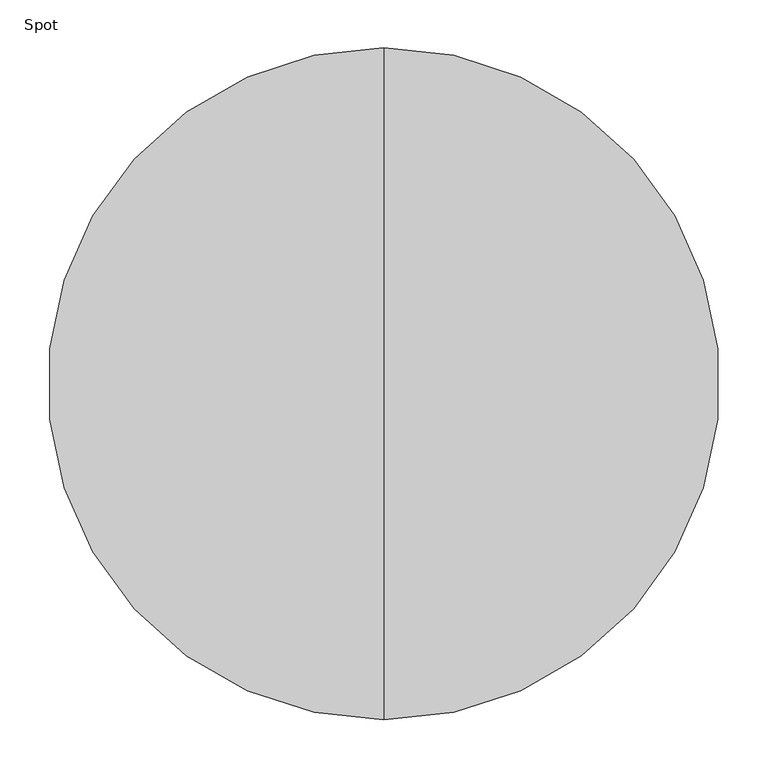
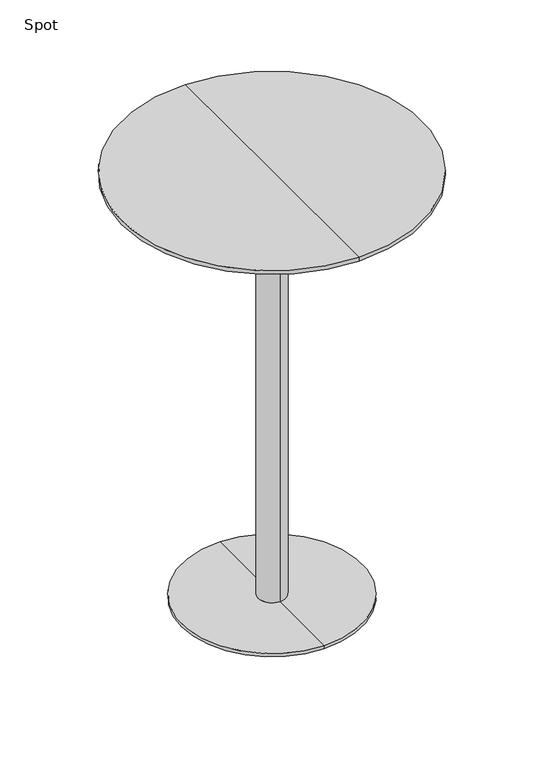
"""IFC4 building model written with IfcOpenShell, lengths in millimetres: furniture geometry, Spot : ø70x105."""

from ifc_helpers import new_model, si_unit, frame, origin, place, context, project, spatial, polyline, circle_curve, source, transform, mapped, element, save
from ifc_brep_helpers import plane_surface, cylinder_surface, revolved_surface, advanced_brep


def spot_e152b922(model_context):
    return source(origin(), model_context, "Body", "AdvancedBrep", [
        advanced_brep(
        [(0.0, 350.0, 1050.0), (0.0, -350.0, 1050.0), (0.0, 0.0, 1050.0), (0.0, 350.0, 1040.25), (0.0, -350.0, 1040.25), (0.0, 304.2823776, 1028.0), (0.0, -304.2823776, 1028.0), (0.0, 0.0, 1028.0)],
        [
            (0, 1, circle_curve(frame((0.0, 0.0, 1050.0), z_axis=(0.0, 0.0, 1.0), x_axis=(0.0, -1.0, 0.0)), 350.0)),
            (1, 2),
            (2, 0),
            (1, 0, circle_curve(frame((0.0, 0.0, 1050.0), z_axis=(0.0, 0.0, 1.0), x_axis=(0.0, -1.0, 0.0)), 350.0)),
            (3, 4, circle_curve(frame((0.0, 0.0, 1040.25), z_axis=(0.0, 0.0, 1.0), x_axis=(0.0, -1.0, 0.0)), 350.0)),
            (4, 1),
            (0, 3),
            (4, 3, circle_curve(frame((0.0, 0.0, 1040.25), z_axis=(0.0, 0.0, 1.0), x_axis=(0.0, -1.0, 0.0)), 350.0)),
            (5, 6, circle_curve(frame((0.0, 0.0, 1028.0), z_axis=(0.0, 0.0, 1.0), x_axis=(0.0, -1.0, 0.0)), 304.2823776)),
            (6, 4),
            (3, 5),
            (6, 5, circle_curve(frame((0.0, 0.0, 1028.0), z_axis=(0.0, 0.0, 1.0), x_axis=(0.0, -1.0, 0.0)), 304.2823776)),
            (7, 6),
            (5, 7),
        ],
        [
            plane_surface(frame((0.0, 0.0, 1050.0), z_axis=(0.0, 0.0, 1.0), x_axis=(0.0, -1.0, 0.0))),
            cylinder_surface(frame((0.0, 0.0, 1130.0), z_axis=(0.0, 0.0, -1.0), x_axis=(0.0, -1.0, 0.0)), 350.0),
            revolved_surface(polyline([(0.0, -350.0, 1040.25), (0.0, -304.2823776, 1028.0)]), (0.0, 0.0, 1130.0), (0.0, 0.0, -1.0)),
            plane_surface(frame((0.0, 0.0, 1028.0), z_axis=(0.0, 0.0, -1.0), x_axis=(0.0, -1.0, 0.0))),
        ],
        [
            (0, [[1, 2, 3]]),
            (0, [[4, -3, -2]]),
            (1, [[5, 6, -1, 7]]),
            (1, [[8, -7, -4, -6]]),
            (2, [[9, 10, -5, 11]]),
            (2, [[12, -11, -8, -10]]),
            (3, [[13, -9, 14]]),
            (3, [[-14, -12, -13]]),
        ],
    ),
        advanced_brep(
        [(0.0, 32.0, 10.0), (0.0, -32.0, 10.0), (0.0, -32.0, 997.406916), (0.0, 32.0, 997.406916), (0.0, 210.0, 10.0), (0.0, -210.0, 10.0), (0.0, 210.0, 2.0), (0.0, -210.0, 2.0), (0.0, 0.0, 2.0), (0.0, 150.0, 1028.0), (0.0, -150.0, 1028.0), (0.0, 0.0, 1028.0), (0.0, 150.0, 1016.7213673), (0.0, -150.0, 1016.7213673)],
        [
            (0, 1, circle_curve(frame((0.0, 0.0, 10.0), z_axis=(0.0, 0.0, 1.0), x_axis=(0.0, -1.0, 0.0)), 32.0)),
            (1, 2),
            (2, 3, circle_curve(frame((0.0, 0.0, 997.406916), z_axis=(0.0, 0.0, -1.0), x_axis=(0.0, -1.0, 0.0)), 32.0)),
            (3, 0),
            (1, 0, circle_curve(frame((0.0, 0.0, 10.0), z_axis=(0.0, 0.0, 1.0), x_axis=(0.0, -1.0, 0.0)), 32.0)),
            (3, 2, circle_curve(frame((0.0, 0.0, 997.406916), z_axis=(0.0, 0.0, -1.0), x_axis=(0.0, -1.0, 0.0)), 32.0)),
            (4, 5, circle_curve(frame((0.0, 0.0, 10.0), z_axis=(0.0, 0.0, 1.0), x_axis=(0.0, -1.0, 0.0)), 210.0)),
            (5, 1),
            (0, 4),
            (5, 4, circle_curve(frame((0.0, 0.0, 10.0), z_axis=(0.0, 0.0, 1.0), x_axis=(0.0, -1.0, 0.0)), 210.0)),
            (6, 7, circle_curve(frame((0.0, 0.0, 2.0), z_axis=(0.0, 0.0, 1.0), x_axis=(0.0, -1.0, 0.0)), 210.0)),
            (7, 5),
            (4, 6),
            (7, 6, circle_curve(frame((0.0, 0.0, 2.0), z_axis=(0.0, 0.0, 1.0), x_axis=(0.0, -1.0, 0.0)), 210.0)),
            (8, 7),
            (6, 8),
            (9, 10, circle_curve(frame((0.0, 0.0, 1028.0), z_axis=(0.0, 0.0, 1.0), x_axis=(0.0, -1.0, 0.0)), 150.0)),
            (10, 11),
            (11, 9),
            (10, 9, circle_curve(frame((0.0, 0.0, 1028.0), z_axis=(0.0, 0.0, 1.0), x_axis=(0.0, -1.0, 0.0)), 150.0)),
            (12, 13, circle_curve(frame((0.0, 0.0, 1016.7213673), z_axis=(0.0, 0.0, 1.0), x_axis=(0.0, -1.0, 0.0)), 150.0)),
            (13, 10),
            (9, 12),
            (13, 12, circle_curve(frame((0.0, 0.0, 1016.7213673), z_axis=(0.0, 0.0, 1.0), x_axis=(0.0, -1.0, 0.0)), 150.0)),
            (2, 13),
            (12, 3),
        ],
        [
            cylinder_surface(frame((0.0, 0.0, 1390.0), z_axis=(0.0, 0.0, -1.0), x_axis=(0.0, -1.0, 0.0)), 32.0),
            plane_surface(frame((0.0, 0.0, 10.0), z_axis=(0.0, 0.0, 1.0), x_axis=(0.0, -1.0, 0.0))),
            cylinder_surface(frame((0.0, 0.0, 1390.0), z_axis=(0.0, 0.0, -1.0), x_axis=(0.0, -1.0, 0.0)), 210.0),
            plane_surface(frame((0.0, 0.0, 2.0), z_axis=(0.0, 0.0, -1.0), x_axis=(0.0, -1.0, 0.0))),
            plane_surface(frame((0.0, 0.0, 1028.0), z_axis=(0.0, 0.0, 1.0), x_axis=(0.0, -1.0, 0.0))),
            cylinder_surface(frame((0.0, 0.0, 1390.0), z_axis=(0.0, 0.0, -1.0), x_axis=(0.0, -1.0, 0.0)), 150.0),
            revolved_surface(polyline([(0.0, -150.0, 1016.7213673), (0.0, -32.0, 997.406916)]), (0.0, 0.0, 1390.0), (0.0, 0.0, -1.0)),
        ],
        [
            (0, [[1, 2, 3, 4]]),
            (0, [[5, -4, 6, -2]]),
            (1, [[7, 8, -1, 9]]),
            (1, [[10, -9, -5, -8]]),
            (2, [[11, 12, -7, 13]]),
            (2, [[14, -13, -10, -12]]),
            (3, [[15, -11, 16]]),
            (3, [[-16, -14, -15]]),
            (4, [[17, 18, 19]]),
            (4, [[20, -19, -18]]),
            (5, [[21, 22, -17, 23]]),
            (5, [[24, -23, -20, -22]]),
            (6, [[-3, 25, -21, 26]]),
            (6, [[-6, -26, -24, -25]]),
        ],
    ),
    ])


if __name__ == "__main__":
    model = new_model("IFC4")
    model_context = context("Model", 3, world=origin())
    ifc_project = project(units=[si_unit("LENGTHUNIT", "METRE", prefix="MILLI")], contexts=[model_context])
    site = spatial("IfcSite", under=ifc_project)
    building = spatial("IfcBuilding", under=site)
    placement = place(None, origin())
    spot_shape = spot_e152b922(model_context)
    element("IfcFurniture", 1, ObjectType="Spot : ø70x105", at=placement, inside=building, context=model_context, shape_type="MappedRepresentation", body=[
        mapped(spot_shape, transform((0.0, 0.0, 0.0), x_axis=(1.0, 0.0, 0.0), y_axis=(0.0, 1.0, 0.0), z_axis=(0.0, 0.0, 1.0))),
    ])
    save(model, "model.ifc")
